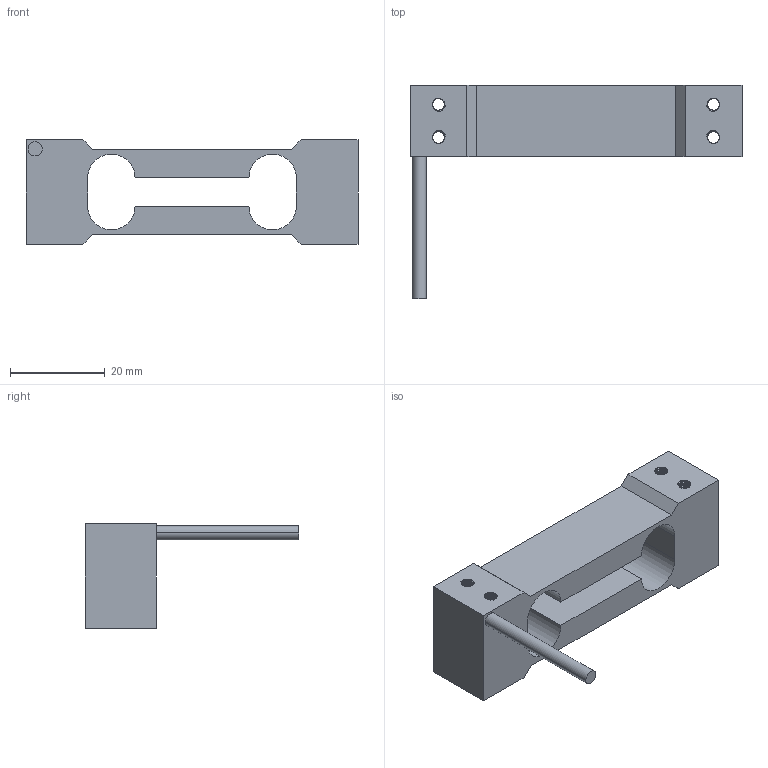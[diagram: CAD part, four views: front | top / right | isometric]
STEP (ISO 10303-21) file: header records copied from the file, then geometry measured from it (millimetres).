
FILE_DESCRIPTION((''),'2;1');
FILE_NAME('_29_WXT','2022-12-14T',('hzcgq'),(''),'PRO/ENGINEER BY PARAMETRIC TECHNOLOGY CORPORATION, 2015070','PRO/ENGINEER BY PARAMETRIC TECHNOLOGY CORPORATION, 2015070','');
FILE_SCHEMA(('CONFIG_CONTROL_DESIGN'));
Products named in the file (1): _29_WXT
Bounding box: 70 x 45 x 22 mm (x, y, z)
Volume: 13870.6 mm3; surface area: 7948.6 mm2
Topology: 1 solids, 1 shells, 473 faces, 1370 edges, 900 vertices
Faces by surface type: cylinder 358, bspline 96, plane 19
Entity records: 39400 total; most frequent: CARTESIAN_POINT 28901, ORIENTED_EDGE 2740, EDGE_CURVE 1370, DIRECTION 1276, VERTEX_POINT 900, B_SPLINE_CURVE_WITH_KNOTS 864, VECTOR 490, LINE 490
